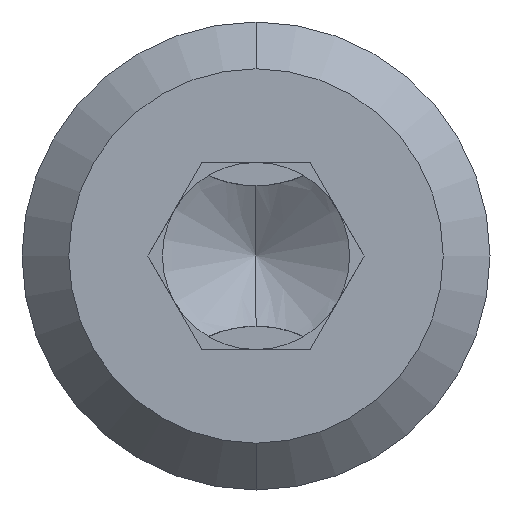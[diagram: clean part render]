
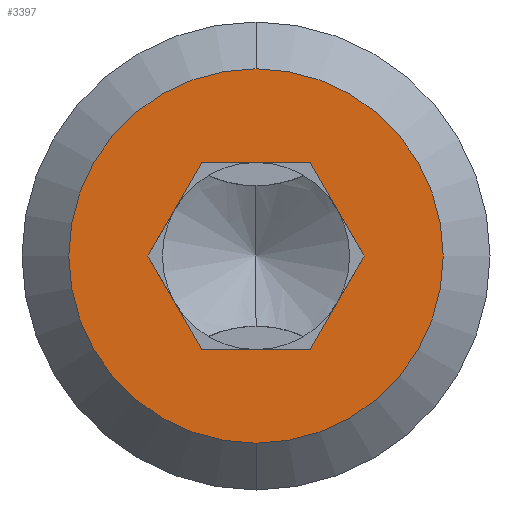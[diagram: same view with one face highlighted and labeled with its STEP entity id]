
A CAD part, front view. The second image highlights one B-rep face of the part: STEP entity #3397.
In plain terms, the highlighted planar face has unit normal (0, -1, 0).
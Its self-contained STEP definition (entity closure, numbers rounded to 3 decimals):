
#40 = CARTESIAN_POINT ( 'NONE',  ( 1.155, -80., -2. ) ) ;
#61 = LINE ( 'NONE', #1105, #1621 ) ;
#63 = EDGE_CURVE ( 'NONE', #2833, #3375, #1607, .T. ) ;
#71 = CARTESIAN_POINT ( 'NONE',  ( 0., -80., 4. ) ) ;
#93 = AXIS2_PLACEMENT_3D ( 'NONE', #2251, #832, #821 ) ;
#126 = CARTESIAN_POINT ( 'NONE',  ( -1.155, -80., 2. ) ) ;
#171 = CARTESIAN_POINT ( 'NONE',  ( 2., -80., 0. ) ) ;
#178 = VERTEX_POINT ( 'NONE', #126 ) ;
#193 = LINE ( 'NONE', #1597, #3219 ) ;
#216 = DIRECTION ( 'NONE',  ( -1., 0., 0. ) ) ;
#251 = ORIENTED_EDGE ( 'NONE', *, *, #1957, .T. ) ;
#258 = VECTOR ( 'NONE', #3546, 1000. ) ;
#354 = VECTOR ( 'NONE', #1293, 1000. ) ;
#365 = ORIENTED_EDGE ( 'NONE', *, *, #1356, .T. ) ;
#426 = LINE ( 'NONE', #3570, #3559 ) ;
#555 = ORIENTED_EDGE ( 'NONE', *, *, #2457, .T. ) ;
#715 = LINE ( 'NONE', #3010, #3672 ) ;
#752 = EDGE_CURVE ( 'NONE', #3064, #2172, #715, .T. ) ;
#821 = DIRECTION ( 'NONE',  ( 0., 0., 1. ) ) ;
#832 = DIRECTION ( 'NONE',  ( 0., -1., 0. ) ) ;
#1001 = ORIENTED_EDGE ( 'NONE', *, *, #2202, .T. ) ;
#1105 = CARTESIAN_POINT ( 'NONE',  ( 2.232, -80., -0.134 ) ) ;
#1106 = DIRECTION ( 'NONE',  ( -0.5, 0., 0.866 ) ) ;
#1110 = EDGE_LOOP ( 'NONE', ( #3762, #1001 ) ) ;
#1293 = DIRECTION ( 'NONE',  ( 0.5, 0., 0.866 ) ) ;
#1356 = EDGE_CURVE ( 'NONE', #1368, #1482, #426, .T. ) ;
#1368 = VERTEX_POINT ( 'NONE', #40 ) ;
#1482 = VERTEX_POINT ( 'NONE', #2118 ) ;
#1597 = CARTESIAN_POINT ( 'NONE',  ( -1.232, -80., -1.866 ) ) ;
#1607 = CIRCLE ( 'NONE', #2400, 4. ) ;
#1621 = VECTOR ( 'NONE', #1685, 1000. ) ;
#1645 = DIRECTION ( 'NONE',  ( 0., 1., 0. ) ) ;
#1685 = DIRECTION ( 'NONE',  ( -0.5, 0., -0.866 ) ) ;
#1957 = EDGE_CURVE ( 'NONE', #2172, #1368, #61, .T. ) ;
#2068 = DIRECTION ( 'NONE',  ( 0., -1., 0. ) ) ;
#2118 = CARTESIAN_POINT ( 'NONE',  ( -1.155, -80., -2. ) ) ;
#2172 = VERTEX_POINT ( 'NONE', #2763 ) ;
#2174 = FACE_BOUND ( 'NONE', #3644, .T. ) ;
#2202 = EDGE_CURVE ( 'NONE', #3375, #2833, #2516, .T. ) ;
#2220 = EDGE_CURVE ( 'NONE', #1482, #2995, #193, .T. ) ;
#2251 = CARTESIAN_POINT ( 'NONE',  ( 0., -80., 0. ) ) ;
#2352 = CARTESIAN_POINT ( 'NONE',  ( 0., -80., 0. ) ) ;
#2400 = AXIS2_PLACEMENT_3D ( 'NONE', #2352, #2068, #2644 ) ;
#2457 = EDGE_CURVE ( 'NONE', #178, #3064, #2583, .T. ) ;
#2516 = CIRCLE ( 'NONE', #93, 4. ) ;
#2583 = LINE ( 'NONE', #3478, #258 ) ;
#2644 = DIRECTION ( 'NONE',  ( 0., 0., 1. ) ) ;
#2674 = LINE ( 'NONE', #3666, #354 ) ;
#2763 = CARTESIAN_POINT ( 'NONE',  ( 2.309, -80., 0. ) ) ;
#2833 = VERTEX_POINT ( 'NONE', #71 ) ;
#2909 = EDGE_CURVE ( 'NONE', #2995, #178, #2674, .T. ) ;
#2910 = CARTESIAN_POINT ( 'NONE',  ( 1.155, -80., 2. ) ) ;
#2974 = AXIS2_PLACEMENT_3D ( 'NONE', #171, #1645, #3724 ) ;
#2995 = VERTEX_POINT ( 'NONE', #3792 ) ;
#3010 = CARTESIAN_POINT ( 'NONE',  ( 2.232, -80., 0.134 ) ) ;
#3024 = ORIENTED_EDGE ( 'NONE', *, *, #752, .T. ) ;
#3064 = VERTEX_POINT ( 'NONE', #2910 ) ;
#3092 = PLANE ( 'NONE',  #2974 ) ;
#3219 = VECTOR ( 'NONE', #1106, 1000. ) ;
#3375 = VERTEX_POINT ( 'NONE', #3384 ) ;
#3384 = CARTESIAN_POINT ( 'NONE',  ( 0., -80., -4. ) ) ;
#3397 = ADVANCED_FACE ( 'NONE', ( #3770, #2174 ), #3092, .F. ) ;
#3422 = ORIENTED_EDGE ( 'NONE', *, *, #2909, .T. ) ;
#3478 = CARTESIAN_POINT ( 'NONE',  ( 2., -80., 2. ) ) ;
#3546 = DIRECTION ( 'NONE',  ( 1., 0., 0. ) ) ;
#3559 = VECTOR ( 'NONE', #216, 1000. ) ;
#3570 = CARTESIAN_POINT ( 'NONE',  ( 2., -80., -2. ) ) ;
#3635 = DIRECTION ( 'NONE',  ( 0.5, 0., -0.866 ) ) ;
#3644 = EDGE_LOOP ( 'NONE', ( #555, #3024, #251, #365, #3693, #3422 ) ) ;
#3666 = CARTESIAN_POINT ( 'NONE',  ( -1.232, -80., 1.866 ) ) ;
#3672 = VECTOR ( 'NONE', #3635, 1000. ) ;
#3693 = ORIENTED_EDGE ( 'NONE', *, *, #2220, .T. ) ;
#3724 = DIRECTION ( 'NONE',  ( 0., 0., 1. ) ) ;
#3762 = ORIENTED_EDGE ( 'NONE', *, *, #63, .T. ) ;
#3770 = FACE_OUTER_BOUND ( 'NONE', #1110, .T. ) ;
#3792 = CARTESIAN_POINT ( 'NONE',  ( -2.309, -80., 0. ) ) ;
